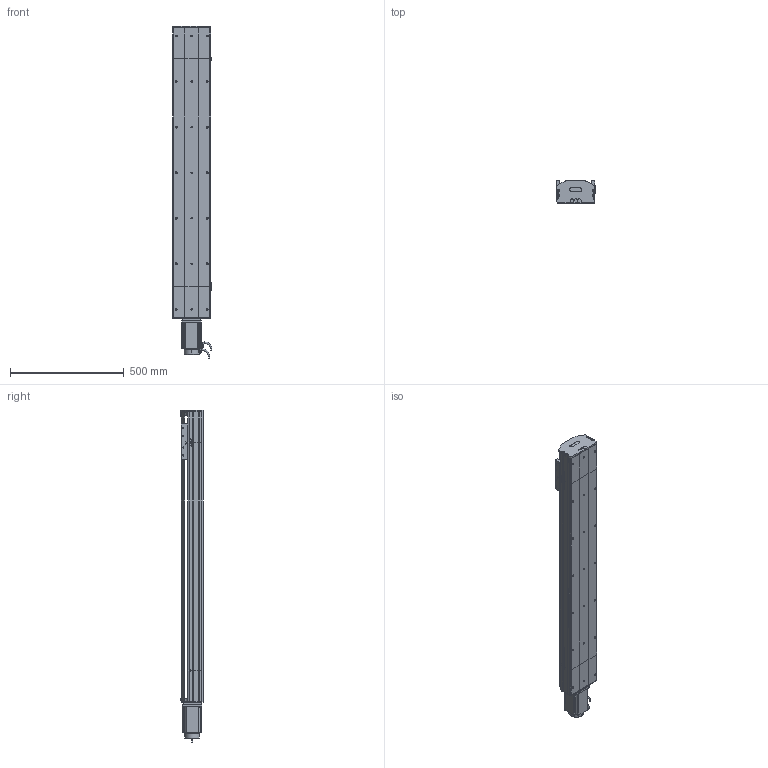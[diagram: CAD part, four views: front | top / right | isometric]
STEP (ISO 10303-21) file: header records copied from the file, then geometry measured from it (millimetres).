
FILE_DESCRIPTION (( 'STEP AP214' ), '1' );
FILE_NAME ('D17 TSH MD S1000.STEP', '2010-06-30T06:53:51', ( 'Christophe Gaillard' ), ( 'SGA' ), 'SwSTEP 2.0', 'SolidWorks 2010', '' );
FILE_SCHEMA (( 'AUTOMOTIVE_DESIGN' ));
Length unit declared in the file: millimetre
Products named in the file (31): avant 90BLDC125A-640; corpl head D17 MD_Default; Moteur motionking 90BLDC125A-640; vis M5 L5_Default; Arbre+rail head D17; plaque de  bout head D17_Default; couvercle D17 head_Default; head MD_Default; vis M5 L25_Default; vis M5 L8 90°_Default; couvercle D17_Default; guide D17; Chariot D17; chariot D17S_Default; vis M5 L12_Default; Vis M5 L16-2_Default; Conecteur_Default; Conecteur2_Default; codeur 90BLDC125-640; corps 90BLDC125A-640; D17 TSH MD S1000; couvercle D17 course L1000_Default; corp D17 1000_Default; arbre + rail D17 Course 1000 ; course 1000 D17_Default; corpl tail D17_Default; Tail D17_Default; Arbre+rail tail D17; tete d''axe haut D17; tete d''axe bas D17; plaque de  bout tail D17_Default
Assembly tree (50 placements, depth 4):
  D17 TSH MD S1000
    Tail D17_Default
      vis M5 L12_Default  x4
      vis M5 L25_Default  x2
      vis M5 L8 90°_Default  x2
      plaque de  bout tail D17_Default
      corpl tail D17_Default
      tete d''axe haut D17
      tete d''axe bas D17
      couvercle D17_Default
      Arbre+rail tail D17
    head MD_Default
      plaque de  bout head D17_Default
      vis M5 L12_Default  x6
      Vis M5 L16-2_Default  x4
      Arbre+rail head D17
      Moteur motionking 90BLDC125A-640
        codeur 90BLDC125-640
        avant 90BLDC125A-640
        Conecteur2_Default
        Conecteur_Default
        corps 90BLDC125A-640
      corpl head D17 MD_Default
      vis M5 L5_Default  x2
      couvercle D17 head_Default
    course 1000 D17_Default
      arbre + rail D17 Course 1000 
      couvercle D17 course L1000_Default
      corp D17 1000_Default
    chariot D17S_Default
      vis M5 L12_Default  x4
      guide D17  x2
      Chariot D17
Bounding box: 174.95 x 99.7 x 1457.5 mm (x, y, z)
Volume: 8345002.4 mm3; surface area: 2132359.9 mm2
Topology: 75 solids, 75 shells, 2118 faces, 5381 edges, 3488 vertices
Faces by surface type: plane 1319, cylinder 550, bspline 136, torus 57, cone 56
Entity records: 71055 total; most frequent: CARTESIAN_POINT 22470, ORIENTED_EDGE 8578, DIRECTION 7942, EDGE_CURVE 4289, VECTOR 2990, LINE 2990, VERTEX_POINT 2824, AXIS2_PLACEMENT_3D 2476
